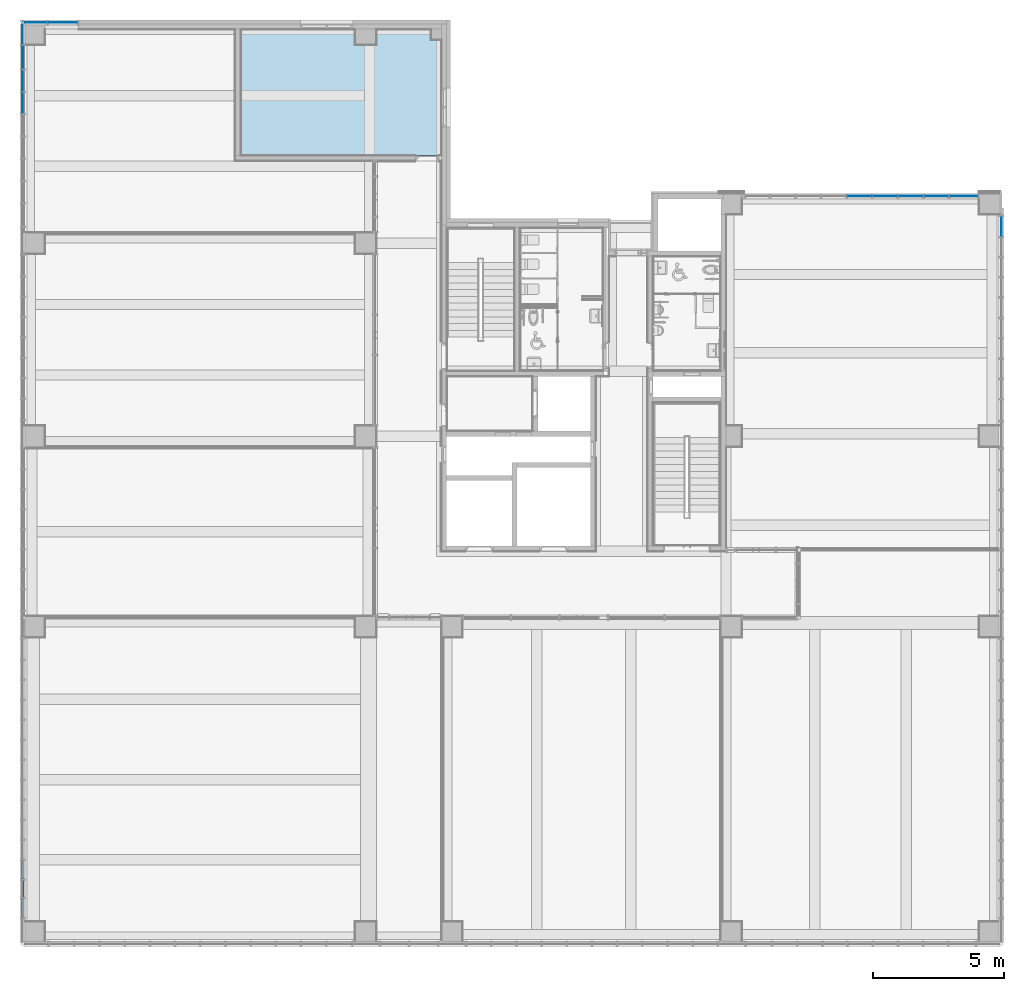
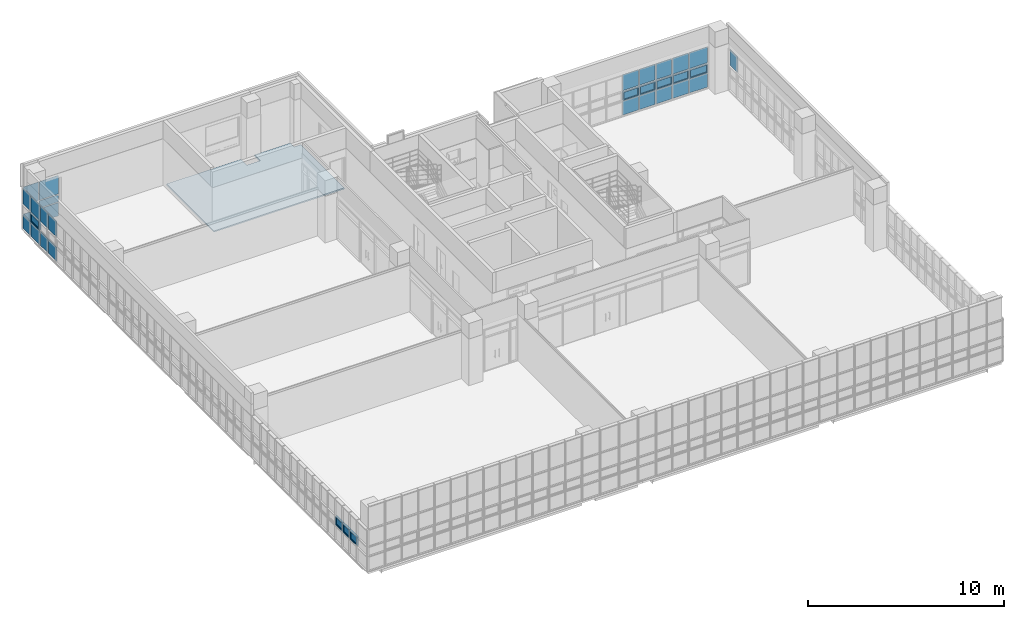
# One storey, part 37 of 76: 33 plates, 1 slab, 4 elements without a shape of their own.
"""IFC2X3 building model written with IfcOpenShell, lengths in millimetres."""

from ifc_helpers import new_model, entity, si_unit, converted_unit, derived_unit, direction, frame, origin, origin_2d_with_axis, place, context, subcontext, project, spatial, polyline, rectangle, outline, extrude, source, transform, mapped, material, material_list, layer, layer_set, layer_usage, type_object, type_shapes, element, aggregate, save


model = new_model("IFC2X3")

# Units and contexts
model_context = context("Model", 3, precision=0.01, world=origin(), true_north=direction((6.123031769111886e-17, 1.0)))
body_context = subcontext(model_context, "Body", "Model", "MODEL_VIEW")
ifc_project = project(units=[si_unit("LENGTHUNIT", "METRE", prefix="MILLI"), si_unit("AREAUNIT", "SQUARE_METRE"), si_unit("VOLUMEUNIT", "CUBIC_METRE"), converted_unit("PLANEANGLEUNIT", "DEGREE", entity("IfcRatioMeasure", 0.017453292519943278), si_unit("PLANEANGLEUNIT", "RADIAN"), dimensions=[0, 0, 0, 0, 0, 0, 0]), si_unit("MASSUNIT", "GRAM", prefix="KILO"), derived_unit("MASSDENSITYUNIT", [(si_unit("MASSUNIT", "GRAM", prefix="KILO"), 1), (si_unit("LENGTHUNIT", "METRE"), -3)]), derived_unit("MOMENTOFINERTIAUNIT", [(si_unit("LENGTHUNIT", "METRE"), 4)]), si_unit("TIMEUNIT", "SECOND"), si_unit("FREQUENCYUNIT", "HERTZ"), si_unit("THERMODYNAMICTEMPERATUREUNIT", "DEGREE_CELSIUS"), derived_unit("THERMALTRANSMITTANCEUNIT", [(si_unit("MASSUNIT", "GRAM", prefix="KILO"), 1), (si_unit("THERMODYNAMICTEMPERATUREUNIT", "KELVIN"), -1), (si_unit("TIMEUNIT", "SECOND"), -3)]), derived_unit("VOLUMETRICFLOWRATEUNIT", [(si_unit("LENGTHUNIT", "METRE"), 3), (si_unit("TIMEUNIT", "SECOND"), -1)]), derived_unit("MASSFLOWRATEUNIT", [(si_unit("MASSUNIT", "GRAM", prefix="KILO"), 1), (si_unit("TIMEUNIT", "SECOND"), -1)]), derived_unit("ROTATIONALFREQUENCYUNIT", [(si_unit("TIMEUNIT", "SECOND"), -1)]), si_unit("ELECTRICCURRENTUNIT", "AMPERE"), si_unit("ELECTRICVOLTAGEUNIT", "VOLT"), si_unit("POWERUNIT", "WATT"), si_unit("FORCEUNIT", "NEWTON", prefix="KILO"), si_unit("ILLUMINANCEUNIT", "LUX"), si_unit("LUMINOUSFLUXUNIT", "LUMEN"), si_unit("LUMINOUSINTENSITYUNIT", "CANDELA"), derived_unit("USERDEFINED", [(si_unit("MASSUNIT", "GRAM", prefix="KILO"), -1), (si_unit("LENGTHUNIT", "METRE"), -2), (si_unit("TIMEUNIT", "SECOND"), 3), (si_unit("LUMINOUSFLUXUNIT", "LUMEN"), 1)]), derived_unit("SOUNDPOWERUNIT", [(si_unit("MASSUNIT", "GRAM", prefix="KILO"), 1), (si_unit("LENGTHUNIT", "METRE"), 2), (si_unit("TIMEUNIT", "SECOND"), -3)]), derived_unit("SOUNDPRESSUREUNIT", [(si_unit("MASSUNIT", "GRAM", prefix="KILO"), 1), (si_unit("LENGTHUNIT", "METRE"), -1), (si_unit("TIMEUNIT", "SECOND"), -2)]), derived_unit("LINEARVELOCITYUNIT", [(si_unit("LENGTHUNIT", "METRE"), 1), (si_unit("TIMEUNIT", "SECOND"), -1)]), si_unit("PRESSUREUNIT", "PASCAL"), derived_unit("USERDEFINED", [(si_unit("LENGTHUNIT", "METRE"), -2), (si_unit("MASSUNIT", "GRAM", prefix="KILO"), 1), (si_unit("TIMEUNIT", "SECOND"), -2)]), derived_unit("LINEARFORCEUNIT", [(si_unit("MASSUNIT", "GRAM", prefix="KILO"), 1), (si_unit("LENGTHUNIT", "METRE"), 1), (si_unit("TIMEUNIT", "SECOND"), -2), (si_unit("LENGTHUNIT", "METRE"), -1)]), derived_unit("PLANARFORCEUNIT", [(si_unit("MASSUNIT", "GRAM", prefix="KILO"), 1), (si_unit("LENGTHUNIT", "METRE"), 1), (si_unit("TIMEUNIT", "SECOND"), -2), (si_unit("LENGTHUNIT", "METRE"), -2)])], contexts=[model_context])

# Site, building, storey
site_placement = place(None, frame((-14167.972527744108, -657.2125860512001, 0.0)))
site = spatial("IfcSite", under=ifc_project, at=site_placement, Name="Default", CompositionType="ELEMENT")
building_placement = place(site_placement, origin())
building = spatial("IfcBuilding", under=site, at=building_placement, Name="Sample Building", CompositionType="ELEMENT")
storey_placement = place(building_placement, frame((0.0, 0.0, 9300.0)))
storey = spatial("IfcBuildingStorey", under=building, at=storey_placement, Name="지상 3층", CompositionType="ELEMENT", Elevation=9300.000000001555)

# Curtain wall, plates
curtain_wall_type = type_object("IfcCurtainWallType", Name="커튼월:CW112-스테인리스 스틸 커튼월", PredefinedType="NOTDEFINED")
curtain_wall_1_placement = place(storey_placement, frame((0.0, 0.0, -9300.0)))
curtain_wall_1 = element("IfcCurtainWall", 1, at=curtain_wall_1_placement, inside=storey, type_object=curtain_wall_type, Name="커튼월:CW112-스테인리스 스틸 커튼월", ObjectType="커튼월:CW112-스테인리스 스틸 커튼월")
ifc_material_1 = material(Name="KBIMS-로이유리(코팅)")
plate_type_1 = type_object("IfcPlateType", Name="CW300-THK24.Low-e coating glass:CW300-THK24.Low-e coating glass", PredefinedType="CURTAIN_PANEL", material=ifc_material_1)
shared_shape_1 = source(origin(), body_context, "Body", "SweptSolid", [
    extrude(rectangle(XDim=24.000000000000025, YDim=874.6836271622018, at=origin_2d_with_axis()), frame((0.0, 0.0, 0.0), z_axis=(0.0, 0.0, 1.0), x_axis=(0.0, 1.0, 0.0)), (0.0, 0.0, 1.0), 824.9999999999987),
])
type_shapes(plate_type_1, [shared_shape_1])
plate_1_placement = place(curtain_wall_1_placement, frame((14505.314268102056, 35807.1622951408, 9430.0)))
plate_1 = element("IfcPlate", 2, at=plate_1_placement, type_object=plate_type_1, material=ifc_material_1, Name="CW300-THK24.Low-e coating glass:CW300-THK24.Low-e coating glass", ObjectType="CW300-THK24.Low-e coating glass:CW300-THK24.Low-e coating glass", context=body_context, shape_type="MappedRepresentation", body=[
    mapped(shared_shape_1, transform((0.0, 0.0, 0.0), scale=1.0)),
])
plate_type_2 = type_object("IfcPlateType", Name="CW300-THK24.Low-e coating glass:CW300-THK24.Low-e coating glass", PredefinedType="CURTAIN_PANEL", material=ifc_material_1)
shared_shape_2 = source(origin(), body_context, "Body", "SweptSolid", [
    extrude(rectangle(XDim=24.000000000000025, YDim=1124.6835731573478, at=origin_2d_with_axis()), frame((0.0, 0.0, 0.0), z_axis=(0.0, 0.0, 1.0), x_axis=(0.0, 1.0, 0.0)), (0.0, 0.0, 1.0), 824.9999999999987),
])
type_shapes(plate_type_2, [shared_shape_2])
plate_2_placement = place(curtain_wall_1_placement, frame((15554.997868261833, 35807.1622951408, 9430.0)))
plate_2 = element("IfcPlate", 3, at=plate_2_placement, type_object=plate_type_2, material=ifc_material_1, Name="CW300-THK24.Low-e coating glass:CW300-THK24.Low-e coating glass", ObjectType="CW300-THK24.Low-e coating glass:CW300-THK24.Low-e coating glass", context=body_context, shape_type="MappedRepresentation", body=[
    mapped(shared_shape_2, transform((0.0, 0.0, 0.0), scale=1.0)),
])
plate_type_3 = type_object("IfcPlateType", Name="CW300-THK24.Low-e coating glass:CW300-THK24.Low-e coating glass", PredefinedType="CURTAIN_PANEL", material=ifc_material_1)
shared_shape_3 = source(origin(), body_context, "Body", "SweptSolid", [
    extrude(rectangle(XDim=24.000000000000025, YDim=1124.6835731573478, at=origin_2d_with_axis()), frame((0.0, 0.0, 0.0), z_axis=(0.0, 0.0, 1.0), x_axis=(0.0, 1.0, 0.0)), (0.0, 0.0, 1.0), 449.9999999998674),
])
type_shapes(plate_type_3, [shared_shape_3])
plate_3_placement = place(curtain_wall_1_placement, frame((15554.997868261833, 35807.1622951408, 10305.0)))
plate_3 = element("IfcPlate", 4, at=plate_3_placement, type_object=plate_type_3, material=ifc_material_1, Name="CW300-THK24.Low-e coating glass:CW300-THK24.Low-e coating glass", ObjectType="CW300-THK24.Low-e coating glass:CW300-THK24.Low-e coating glass", context=body_context, shape_type="MappedRepresentation", body=[
    mapped(shared_shape_3, transform((0.0, 0.0, 0.0), scale=1.0)),
])
plate_type_4 = type_object("IfcPlateType", Name="CW300-THK24.Low-e coating glass:CW300-THK24.Low-e coating glass", PredefinedType="CURTAIN_PANEL", material=ifc_material_1)
shared_shape_4 = source(origin(), body_context, "Body", "SweptSolid", [
    extrude(rectangle(XDim=24.000000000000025, YDim=874.6836271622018, at=origin_2d_with_axis()), frame((0.0, 0.0, 0.0), z_axis=(0.0, 0.0, 1.0), x_axis=(0.0, 1.0, 0.0)), (0.0, 0.0, 1.0), 1145.0000000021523),
])
type_shapes(plate_type_4, [shared_shape_4])
plate_4_placement = place(curtain_wall_1_placement, frame((14505.314268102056, 35807.1622951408, 10805.0)))
plate_4 = element("IfcPlate", 5, at=plate_4_placement, type_object=plate_type_4, material=ifc_material_1, Name="CW300-THK24.Low-e coating glass:CW300-THK24.Low-e coating glass", ObjectType="CW300-THK24.Low-e coating glass:CW300-THK24.Low-e coating glass", context=body_context, shape_type="MappedRepresentation", body=[
    mapped(shared_shape_4, transform((0.0, 0.0, 0.0), scale=1.0)),
])
plate_type_5 = type_object("IfcPlateType", Name="CW300-THK24.Low-e coating glass:CW300-THK24.Low-e coating glass", PredefinedType="CURTAIN_PANEL", material=ifc_material_1)
shared_shape_5 = source(origin(), body_context, "Body", "SweptSolid", [
    extrude(rectangle(XDim=24.000000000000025, YDim=1124.6835731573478, at=origin_2d_with_axis()), frame((0.0, 0.0, 0.0), z_axis=(0.0, 0.0, 1.0), x_axis=(0.0, 1.0, 0.0)), (0.0, 0.0, 1.0), 1145.0000000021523),
])
type_shapes(plate_type_5, [shared_shape_5])
plate_5_placement = place(curtain_wall_1_placement, frame((15554.997868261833, 35807.1622951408, 10805.0)))
plate_5 = element("IfcPlate", 6, at=plate_5_placement, type_object=plate_type_5, material=ifc_material_1, Name="CW300-THK24.Low-e coating glass:CW300-THK24.Low-e coating glass", ObjectType="CW300-THK24.Low-e coating glass:CW300-THK24.Low-e coating glass", context=body_context, shape_type="MappedRepresentation", body=[
    mapped(shared_shape_5, transform((0.0, 0.0, 0.0), scale=1.0)),
])
aggregate(curtain_wall_1, [plate_1, plate_2, plate_3, plate_4, plate_5])

curtain_wall_2_placement = place(storey_placement, frame((0.0, 0.0, -9300.0)))
curtain_wall_2 = element("IfcCurtainWall", 7, at=curtain_wall_2_placement, inside=storey, type_object=curtain_wall_type, Name="커튼월:CW112-스테인리스 스틸 커튼월", ObjectType="커튼월:CW112-스테인리스 스틸 커튼월")
plate_type_6 = type_object("IfcPlateType", Name="CW300-THK24.Low-e coating glass:CW300-THK24.Low-e coating glass", PredefinedType="CURTAIN_PANEL", material=ifc_material_1)
shared_shape_6 = source(origin(), body_context, "Body", "SweptSolid", [
    extrude(rectangle(XDim=778.6554851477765, YDim=24.000000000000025, at=origin_2d_with_axis()), frame((0.0, 0.0, 0.0), z_axis=(0.0, 0.0, 1.0), x_axis=(-1.0, 0.0, 0.0)), (0.0, 0.0, 1.0), 875.0000000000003),
])
type_shapes(plate_type_6, [shared_shape_6])
plate_6_placement = place(curtain_wall_2_placement, frame((14018.58790484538, 35368.14544966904, 9430.0), z_axis=(0.0, 0.0, 1.0), x_axis=(0.0, -1.0, 0.0)))
plate_6 = element("IfcPlate", 8, at=plate_6_placement, type_object=plate_type_6, material=ifc_material_1, Name="CW300-THK24.Low-e coating glass:CW300-THK24.Low-e coating glass", ObjectType="CW300-THK24.Low-e coating glass:CW300-THK24.Low-e coating glass", context=body_context, shape_type="MappedRepresentation", body=[
    mapped(shared_shape_6, transform((0.0, 0.0, 0.0), scale=1.0)),
])
plate_type_7 = type_object("IfcPlateType", Name="CW300-THK24.Low-e coating glass:CW300-THK24.Low-e coating glass", PredefinedType="CURTAIN_PANEL", material=ifc_material_1)
shared_shape_7 = source(origin(), body_context, "Body", "SweptSolid", [
    extrude(rectangle(XDim=894.0000000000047, YDim=24.000000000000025, at=origin_2d_with_axis()), frame((0.0, 0.0, 0.0), z_axis=(0.0, 0.0, 1.0), x_axis=(-1.0, 0.0, 0.0)), (0.0, 0.0, 1.0), 875.0000000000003),
])
type_shapes(plate_type_7, [shared_shape_7])
plate_7_placement = place(curtain_wall_2_placement, frame((14018.587904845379, 34481.81770709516, 9430.0), z_axis=(0.0, 0.0, 1.0), x_axis=(0.0, -1.0, 0.0)))
plate_7 = element("IfcPlate", 9, at=plate_7_placement, type_object=plate_type_7, material=ifc_material_1, Name="CW300-THK24.Low-e coating glass:CW300-THK24.Low-e coating glass", ObjectType="CW300-THK24.Low-e coating glass:CW300-THK24.Low-e coating glass", context=body_context, shape_type="MappedRepresentation", body=[
    mapped(shared_shape_7, transform((0.0, 0.0, 0.0), scale=1.0)),
])
plate_type_8 = type_object("IfcPlateType", Name="CW300-THK24.Low-e coating glass:CW300-THK24.Low-e coating glass", PredefinedType="CURTAIN_PANEL", material=ifc_material_1)
shared_shape_8 = source(origin(), body_context, "Body", "SweptSolid", [
    extrude(rectangle(XDim=804.0000000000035, YDim=24.000000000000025, at=origin_2d_with_axis()), frame((0.0, 0.0, 0.0), z_axis=(0.0, 0.0, 1.0), x_axis=(-1.0, 0.0, 0.0)), (0.0, 0.0, 1.0), 875.0000000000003),
])
type_shapes(plate_type_8, [shared_shape_8])
plate_8_placement = place(curtain_wall_2_placement, frame((14018.587904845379, 33582.81770709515, 9430.0), z_axis=(0.0, 0.0, 1.0), x_axis=(0.0, -1.0, 0.0)))
plate_8 = element("IfcPlate", 10, at=plate_8_placement, type_object=plate_type_8, material=ifc_material_1, Name="CW300-THK24.Low-e coating glass:CW300-THK24.Low-e coating glass", ObjectType="CW300-THK24.Low-e coating glass:CW300-THK24.Low-e coating glass", context=body_context, shape_type="MappedRepresentation", body=[
    mapped(shared_shape_8, transform((0.0, 0.0, 0.0), scale=1.0)),
])
plate_9_placement = place(curtain_wall_2_placement, frame((14018.587904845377, 32728.817707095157, 9430.0), z_axis=(0.0, 0.0, 1.0), x_axis=(0.0, -1.0, 0.0)))
plate_9 = element("IfcPlate", 11, at=plate_9_placement, type_object=plate_type_8, material=ifc_material_1, Name="CW300-THK24.Low-e coating glass:CW300-THK24.Low-e coating glass", ObjectType="CW300-THK24.Low-e coating glass:CW300-THK24.Low-e coating glass", context=body_context, shape_type="MappedRepresentation", body=[
    mapped(shared_shape_8, transform((0.0, 0.0, 0.0), scale=1.0)),
])
ifc_material_2 = material(Name="KBIMS-유리")
ifc_material_3 = material(Name="KBIMS-알루미늄")
ifc_material_list_1 = material_list([ifc_material_2, ifc_material_3])
ifc_material_list_2 = material_list([ifc_material_2, ifc_material_3])
plate_type_9 = type_object("IfcPlateType", Name="CW410-프로젝트 창:CW410-프로젝트 창 (하부개폐)", PredefinedType="CURTAIN_PANEL", material=ifc_material_list_2)
shared_shape_9 = source(origin(), body_context, "Body", "SweptSolid", [
    extrude(rectangle(XDim=794.0000000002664, YDim=23.999999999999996, at=origin_2d_with_axis()), frame((0.0, -0.04999999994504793, 50.0), z_axis=(0.0, 0.0, 1.0), x_axis=(-1.0, 0.0, 0.0)), (0.0, 0.0, 1.0), 450.0000000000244),
    extrude(outline(polyline([(-447.0, -275.0), (447.0, -275.0), (447.0, 275.0), (-447.0, 275.0), (-447.0, -275.0)]), holes=[polyline([(-397.0, -225.0), (-397.0, 225.0), (397.0, 225.0), (397.0, -225.0), (-397.0, -225.0)])]), frame((0.0, -50.04999999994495, 275.0), z_axis=(0.0, 1.0, 0.0), x_axis=(1.0, 0.0, 0.0)), (0.0, 0.0, 1.0), 99.99999999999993),
])
type_shapes(plate_type_9, [shared_shape_9])
plate_10_placement = place(curtain_wall_2_placement, frame((14018.587904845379, 34481.81770709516, 10355.0), z_axis=(0.0, 0.0, 1.0), x_axis=(0.0, -1.0, 0.0)))
plate_10 = element("IfcPlate", 12, at=plate_10_placement, type_object=plate_type_9, material=ifc_material_list_1, Name="CW410-프로젝트 창:CW410-프로젝트 창 (하부개폐)", ObjectType="CW410-프로젝트 창:CW410-프로젝트 창 (하부개폐)", context=body_context, shape_type="MappedRepresentation", body=[
    mapped(shared_shape_9, transform((0.0, 0.0, 0.0), scale=1.0)),
])
ifc_material_list_3 = material_list([ifc_material_2, ifc_material_3])
ifc_material_list_4 = material_list([ifc_material_2, ifc_material_3])
plate_type_10 = type_object("IfcPlateType", Name="CW410-프로젝트 창:CW410-프로젝트 창 (하부개폐)", PredefinedType="CURTAIN_PANEL", material=ifc_material_list_4)
shared_shape_10 = source(origin(), body_context, "Body", "SweptSolid", [
    extrude(rectangle(XDim=616.0000000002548, YDim=23.999999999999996, at=origin_2d_with_axis()), frame((0.0, -0.04999999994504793, 50.0), z_axis=(0.0, 0.0, 1.0), x_axis=(-1.0, 0.0, 0.0)), (0.0, 0.0, 1.0), 450.0000000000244),
    extrude(outline(polyline([(-358.0, -275.0), (358.0, -275.0), (358.0, 275.0), (-358.0, 275.0), (-358.0, -275.0)]), holes=[polyline([(-308.0, -225.0), (-308.0, 225.0), (308.0, 225.0), (308.0, -225.0), (-308.0, -225.0)])]), frame((0.0, -50.04999999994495, 275.0), z_axis=(0.0, 1.0, 0.0), x_axis=(1.0, 0.0, 0.0)), (0.0, 0.0, 1.0), 99.99999999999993),
])
type_shapes(plate_type_10, [shared_shape_10])
plate_11_placement = place(curtain_wall_2_placement, frame((14018.587904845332, 3352.817707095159, 10355.0), z_axis=(0.0, 0.0, 1.0), x_axis=(0.0, -1.0, 0.0)))
plate_11 = element("IfcPlate", 13, at=plate_11_placement, type_object=plate_type_10, material=ifc_material_list_3, Name="CW410-프로젝트 창:CW410-프로젝트 창 (하부개폐)", ObjectType="CW410-프로젝트 창:CW410-프로젝트 창 (하부개폐)", context=body_context, shape_type="MappedRepresentation", body=[
    mapped(shared_shape_10, transform((0.0, 0.0, 0.0), scale=1.0)),
])
ifc_material_list_5 = material_list([ifc_material_2, ifc_material_3])
ifc_material_list_6 = material_list([ifc_material_2, ifc_material_3])
plate_type_11 = type_object("IfcPlateType", Name="CW410-프로젝트 창:CW410-프로젝트 창 (하부개폐)", PredefinedType="CURTAIN_PANEL", material=ifc_material_list_6)
shared_shape_11 = source(origin(), body_context, "Body", "SweptSolid", [
    extrude(rectangle(XDim=542.000000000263, YDim=23.999999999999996, at=origin_2d_with_axis()), frame((0.0, -0.04999999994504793, 50.0), z_axis=(0.0, 0.0, 1.0), x_axis=(-1.0, 0.0, 0.0)), (0.0, 0.0, 1.0), 450.0000000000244),
    extrude(outline(polyline([(-321.0, -275.0), (321.0, -275.0), (321.0, 275.0), (-321.0, 275.0), (-321.0, -275.0)]), holes=[polyline([(-271.0, -225.0), (-271.0, 225.0), (271.0, 225.0), (271.0, -225.0), (-271.0, -225.0)])]), frame((0.0, -50.04999999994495, 275.0), z_axis=(0.0, 1.0, 0.0), x_axis=(1.0, 0.0, 0.0)), (0.0, 0.0, 1.0), 99.99999999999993),
])
type_shapes(plate_type_11, [shared_shape_11])
plate_12_placement = place(curtain_wall_2_placement, frame((14018.587904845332, 2623.81770709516, 10355.0), z_axis=(0.0, 0.0, 1.0), x_axis=(0.0, -1.0, 0.0)))
plate_12 = element("IfcPlate", 14, at=plate_12_placement, type_object=plate_type_11, material=ifc_material_list_5, Name="CW410-프로젝트 창:CW410-프로젝트 창 (하부개폐)", ObjectType="CW410-프로젝트 창:CW410-프로젝트 창 (하부개폐)", context=body_context, shape_type="MappedRepresentation", body=[
    mapped(shared_shape_11, transform((0.0, 0.0, 0.0), scale=1.0)),
])
ifc_material_list_7 = material_list([ifc_material_2, ifc_material_3])
ifc_material_list_8 = material_list([ifc_material_2, ifc_material_3])
plate_type_12 = type_object("IfcPlateType", Name="CW410-프로젝트 창:CW410-프로젝트 창 (하부개폐)", PredefinedType="CURTAIN_PANEL", material=ifc_material_list_8)
shared_shape_12 = source(origin(), body_context, "Body", "SweptSolid", [
    extrude(rectangle(XDim=633.0000000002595, YDim=23.999999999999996, at=origin_2d_with_axis()), frame((0.0, -0.04999999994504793, 50.0), z_axis=(0.0, 0.0, 1.0), x_axis=(-1.0, 0.0, 0.0)), (0.0, 0.0, 1.0), 450.0000000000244),
    extrude(outline(polyline([(-366.4999999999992, -275.0), (366.4999999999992, -275.0), (366.4999999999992, 275.0), (-366.4999999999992, 275.0), (-366.4999999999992, -275.0)]), holes=[polyline([(-316.50000000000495, -225.0), (-316.500000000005, 225.0), (316.5000000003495, 225.0), (316.50000000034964, -225.0), (-316.50000000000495, -225.0)])]), frame((0.0, -50.04999999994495, 275.0), z_axis=(0.0, 1.0, 0.0), x_axis=(1.0, 0.0, 0.0)), (0.0, 0.0, 1.0), 99.99999999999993),
])
type_shapes(plate_type_12, [shared_shape_12])
plate_13_placement = place(curtain_wall_2_placement, frame((14018.587904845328, 1886.3177070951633, 10355.0), z_axis=(0.0, 0.0, 1.0), x_axis=(0.0, -1.0, 0.0)))
plate_13 = element("IfcPlate", 15, at=plate_13_placement, type_object=plate_type_12, material=ifc_material_list_7, Name="CW410-프로젝트 창:CW410-프로젝트 창 (하부개폐)", ObjectType="CW410-프로젝트 창:CW410-프로젝트 창 (하부개폐)", context=body_context, shape_type="MappedRepresentation", body=[
    mapped(shared_shape_12, transform((0.0, 0.0, 0.0), scale=1.0)),
])
plate_type_13 = type_object("IfcPlateType", Name="CW300-THK24.Low-e coating glass:CW300-THK24.Low-e coating glass", PredefinedType="CURTAIN_PANEL", material=ifc_material_1)
shared_shape_13 = source(origin(), body_context, "Body", "SweptSolid", [
    extrude(rectangle(XDim=778.6554851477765, YDim=24.000000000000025, at=origin_2d_with_axis()), frame((0.0, 0.0, 0.0), z_axis=(0.0, 0.0, 1.0), x_axis=(-1.0, 0.0, 0.0)), (0.0, 0.0, 1.0), 995.0000000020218),
])
type_shapes(plate_type_13, [shared_shape_13])
plate_14_placement = place(curtain_wall_2_placement, frame((14018.58790484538, 35368.14544966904, 10955.0), z_axis=(0.0, 0.0, 1.0), x_axis=(0.0, -1.0, 0.0)))
plate_14 = element("IfcPlate", 16, at=plate_14_placement, type_object=plate_type_13, material=ifc_material_1, Name="CW300-THK24.Low-e coating glass:CW300-THK24.Low-e coating glass", ObjectType="CW300-THK24.Low-e coating glass:CW300-THK24.Low-e coating glass", context=body_context, shape_type="MappedRepresentation", body=[
    mapped(shared_shape_13, transform((0.0, 0.0, 0.0), scale=1.0)),
])
plate_type_14 = type_object("IfcPlateType", Name="CW300-THK24.Low-e coating glass:CW300-THK24.Low-e coating glass", PredefinedType="CURTAIN_PANEL", material=ifc_material_1)
shared_shape_14 = source(origin(), body_context, "Body", "SweptSolid", [
    extrude(rectangle(XDim=894.0000000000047, YDim=24.000000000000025, at=origin_2d_with_axis()), frame((0.0, 0.0, 0.0), z_axis=(0.0, 0.0, 1.0), x_axis=(-1.0, 0.0, 0.0)), (0.0, 0.0, 1.0), 995.0000000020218),
])
type_shapes(plate_type_14, [shared_shape_14])
plate_15_placement = place(curtain_wall_2_placement, frame((14018.587904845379, 34481.81770709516, 10955.0), z_axis=(0.0, 0.0, 1.0), x_axis=(0.0, -1.0, 0.0)))
plate_15 = element("IfcPlate", 17, at=plate_15_placement, type_object=plate_type_14, material=ifc_material_1, Name="CW300-THK24.Low-e coating glass:CW300-THK24.Low-e coating glass", ObjectType="CW300-THK24.Low-e coating glass:CW300-THK24.Low-e coating glass", context=body_context, shape_type="MappedRepresentation", body=[
    mapped(shared_shape_14, transform((0.0, 0.0, 0.0), scale=1.0)),
])
plate_type_15 = type_object("IfcPlateType", Name="CW300-THK24.Low-e coating glass:CW300-THK24.Low-e coating glass", PredefinedType="CURTAIN_PANEL", material=ifc_material_1)
shared_shape_15 = source(origin(), body_context, "Body", "SweptSolid", [
    extrude(rectangle(XDim=803.9999999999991, YDim=24.000000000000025, at=origin_2d_with_axis()), frame((0.0, 0.0, 0.0), z_axis=(0.0, 0.0, 1.0), x_axis=(-1.0, 0.0, 0.0)), (0.0, 0.0, 1.0), 995.0000000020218),
])
type_shapes(plate_type_15, [shared_shape_15])
plate_16_placement = place(curtain_wall_2_placement, frame((14018.587904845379, 33582.81770709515, 10955.0), z_axis=(0.0, 0.0, 1.0), x_axis=(0.0, -1.0, 0.0)))
plate_16 = element("IfcPlate", 18, at=plate_16_placement, type_object=plate_type_15, material=ifc_material_1, Name="CW300-THK24.Low-e coating glass:CW300-THK24.Low-e coating glass", ObjectType="CW300-THK24.Low-e coating glass:CW300-THK24.Low-e coating glass", context=body_context, shape_type="MappedRepresentation", body=[
    mapped(shared_shape_15, transform((0.0, 0.0, 0.0), scale=1.0)),
])
plate_17_placement = place(curtain_wall_2_placement, frame((14018.587904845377, 32728.817707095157, 10955.0), z_axis=(0.0, 0.0, 1.0), x_axis=(0.0, -1.0, 0.0)))
plate_17 = element("IfcPlate", 19, at=plate_17_placement, type_object=plate_type_15, material=ifc_material_1, Name="CW300-THK24.Low-e coating glass:CW300-THK24.Low-e coating glass", ObjectType="CW300-THK24.Low-e coating glass:CW300-THK24.Low-e coating glass", context=body_context, shape_type="MappedRepresentation", body=[
    mapped(shared_shape_15, transform((0.0, 0.0, 0.0), scale=1.0)),
])
aggregate(curtain_wall_2, [plate_6, plate_7, plate_8, plate_9, plate_10, plate_11, plate_12, plate_13, plate_14, plate_15, plate_16, plate_17])

# Curtain wall, plate
curtain_wall_3_placement = place(storey_placement, frame((0.0, 0.0, -9300.0)))
curtain_wall_3 = element("IfcCurtainWall", 20, at=curtain_wall_3_placement, inside=storey, type_object=curtain_wall_type, Name="커튼월:CW112-스테인리스 스틸 커튼월", ObjectType="커튼월:CW112-스테인리스 스틸 커튼월")
plate_type_16 = type_object("IfcPlateType", Name="CW300-THK24.Low-e coating glass:CW300-THK24.Low-e coating glass", PredefinedType="CURTAIN_PANEL", material=ifc_material_1)
shared_shape_16 = source(origin(), body_context, "Body", "SweptSolid", [
    extrude(rectangle(XDim=24.000000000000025, YDim=783.3946888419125, at=origin_2d_with_axis()), frame((0.0, 0.0, 0.0), z_axis=(0.0, 0.0, 1.0), x_axis=(0.0, 1.0, 0.0)), (0.0, 0.0, 1.0), 995.0000000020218),
])
type_shapes(plate_type_16, [shared_shape_16])
plate_18_placement = place(curtain_wall_3_placement, frame((51517.96382893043, 27997.515051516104, 10955.0), z_axis=(0.0, 0.0, 1.0), x_axis=(0.0, -1.0, 0.0)))
plate_18 = element("IfcPlate", 21, at=plate_18_placement, type_object=plate_type_16, material=ifc_material_1, Name="CW300-THK24.Low-e coating glass:CW300-THK24.Low-e coating glass", ObjectType="CW300-THK24.Low-e coating glass:CW300-THK24.Low-e coating glass", context=body_context, shape_type="MappedRepresentation", body=[
    mapped(shared_shape_16, transform((0.0, 0.0, 0.0), scale=1.0)),
])
aggregate(curtain_wall_3, [plate_18])

# Curtain wall, plates
curtain_wall_4_placement = place(storey_placement, frame((0.0, 0.0, -9300.0)))
curtain_wall_4 = element("IfcCurtainWall", 22, at=curtain_wall_4_placement, inside=storey, type_object=curtain_wall_type, Name="커튼월:CW112-스테인리스 스틸 커튼월", ObjectType="커튼월:CW112-스테인리스 스틸 커튼월")
plate_type_17 = type_object("IfcPlateType", Name="CW300-THK24.Low-e coating glass:CW300-THK24.Low-e coating glass", PredefinedType="CURTAIN_PANEL", material=ifc_material_1)
shared_shape_17 = source(origin(), body_context, "Body", "SweptSolid", [
    extrude(rectangle(XDim=1076.0156546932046, YDim=24.000000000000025, at=origin_2d_with_axis()), frame((0.0, 0.0, 0.0), z_axis=(0.0, 0.0, 1.0), x_axis=(-1.0, 0.0, 0.0)), (0.0, 0.0, 1.0), 875.0000000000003),
])
type_shapes(plate_type_17, [shared_shape_17])
plate_19_placement = place(curtain_wall_4_placement, frame((50070.97338755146, 29157.212295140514, 9430.0), z_axis=(0.0, 0.0, 1.0), x_axis=(-1.0, 0.0, 0.0)))
plate_19 = element("IfcPlate", 23, at=plate_19_placement, type_object=plate_type_17, material=ifc_material_1, Name="CW300-THK24.Low-e coating glass:CW300-THK24.Low-e coating glass", ObjectType="CW300-THK24.Low-e coating glass:CW300-THK24.Low-e coating glass", context=body_context, shape_type="MappedRepresentation", body=[
    mapped(shared_shape_17, transform((0.0, 0.0, 0.0), scale=1.0)),
])
plate_type_18 = type_object("IfcPlateType", Name="CW300-THK24.Low-e coating glass:CW300-THK24.Low-e coating glass", PredefinedType="CURTAIN_PANEL", material=ifc_material_1)
shared_shape_18 = source(origin(), body_context, "Body", "SweptSolid", [
    extrude(rectangle(XDim=929.9991343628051, YDim=24.000000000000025, at=origin_2d_with_axis()), frame((0.0, 0.0, 0.0), z_axis=(0.0, 0.0, 1.0), x_axis=(-1.0, 0.0, 0.0)), (0.0, 0.0, 1.0), 875.0000000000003),
])
type_shapes(plate_type_18, [shared_shape_18])
plate_20_placement = place(curtain_wall_4_placement, frame((49017.96599302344, 29157.212295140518, 9430.0), z_axis=(0.0, 0.0, 1.0), x_axis=(-1.0, 0.0, 0.0)))
plate_20 = element("IfcPlate", 24, at=plate_20_placement, type_object=plate_type_18, material=ifc_material_1, Name="CW300-THK24.Low-e coating glass:CW300-THK24.Low-e coating glass", ObjectType="CW300-THK24.Low-e coating glass:CW300-THK24.Low-e coating glass", context=body_context, shape_type="MappedRepresentation", body=[
    mapped(shared_shape_18, transform((0.0, 0.0, 0.0), scale=1.0)),
])
plate_21_placement = place(curtain_wall_4_placement, frame((48037.966858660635, 29157.212295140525, 9430.0), z_axis=(0.0, 0.0, 1.0), x_axis=(-1.0, 0.0, 0.0)))
plate_21 = element("IfcPlate", 25, at=plate_21_placement, type_object=plate_type_18, material=ifc_material_1, Name="CW300-THK24.Low-e coating glass:CW300-THK24.Low-e coating glass", ObjectType="CW300-THK24.Low-e coating glass:CW300-THK24.Low-e coating glass", context=body_context, shape_type="MappedRepresentation", body=[
    mapped(shared_shape_18, transform((0.0, 0.0, 0.0), scale=1.0)),
])
plate_22_placement = place(curtain_wall_4_placement, frame((47057.96772429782, 29157.21229514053, 9430.0), z_axis=(0.0, 0.0, 1.0), x_axis=(-1.0, 0.0, 0.0)))
plate_22 = element("IfcPlate", 26, at=plate_22_placement, type_object=plate_type_18, material=ifc_material_1, Name="CW300-THK24.Low-e coating glass:CW300-THK24.Low-e coating glass", ObjectType="CW300-THK24.Low-e coating glass:CW300-THK24.Low-e coating glass", context=body_context, shape_type="MappedRepresentation", body=[
    mapped(shared_shape_18, transform((0.0, 0.0, 0.0), scale=1.0)),
])
plate_23_placement = place(curtain_wall_4_placement, frame((46077.96858993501, 29157.21229514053, 9430.0), z_axis=(0.0, 0.0, 1.0), x_axis=(-1.0, 0.0, 0.0)))
plate_23 = element("IfcPlate", 27, at=plate_23_placement, type_object=plate_type_18, material=ifc_material_1, Name="CW300-THK24.Low-e coating glass:CW300-THK24.Low-e coating glass", ObjectType="CW300-THK24.Low-e coating glass:CW300-THK24.Low-e coating glass", context=body_context, shape_type="MappedRepresentation", body=[
    mapped(shared_shape_18, transform((0.0, 0.0, 0.0), scale=1.0)),
])
ifc_material_list_9 = material_list([ifc_material_2, ifc_material_3])
ifc_material_list_10 = material_list([ifc_material_2, ifc_material_3])
plate_type_19 = type_object("IfcPlateType", Name="CW410-프로젝트 창:CW410-프로젝트 창 (하부개폐)", PredefinedType="CURTAIN_PANEL", material=ifc_material_list_10)
shared_shape_19 = source(origin(), body_context, "Body", "SweptSolid", [
    extrude(rectangle(XDim=23.999999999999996, YDim=976.0156546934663, at=origin_2d_with_axis()), frame((0.0, 0.04999999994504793, 50.0), z_axis=(0.0, 0.0, 1.0), x_axis=(0.0, 1.0, 0.0)), (0.0, 0.0, 1.0), 450.0000000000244),
    extrude(outline(polyline([(-538.0078273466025, -275.0), (538.0078273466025, -275.0), (538.0078273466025, 275.0), (-538.0078273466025, 275.0), (-538.0078273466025, -275.0)]), holes=[polyline([(-488.0078273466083, -225.0), (-488.00782734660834, 225.0), (488.0078273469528, 225.0), (488.007827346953, -225.0), (-488.0078273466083, -225.0)])]), frame((0.0, -49.95000000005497, 275.0), z_axis=(0.0, 1.0, 0.0), x_axis=(1.0, 0.0, 0.0)), (0.0, 0.0, 1.0), 99.99999999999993),
])
type_shapes(plate_type_19, [shared_shape_19])
plate_24_placement = place(curtain_wall_4_placement, frame((50070.97338755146, 29157.212295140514, 10355.0), z_axis=(0.0, 0.0, 1.0), x_axis=(-1.0, 0.0, 0.0)))
plate_24 = element("IfcPlate", 28, at=plate_24_placement, type_object=plate_type_19, material=ifc_material_list_9, Name="CW410-프로젝트 창:CW410-프로젝트 창 (하부개폐)", ObjectType="CW410-프로젝트 창:CW410-프로젝트 창 (하부개폐)", context=body_context, shape_type="MappedRepresentation", body=[
    mapped(shared_shape_19, transform((0.0, 0.0, 0.0), scale=1.0)),
])
ifc_material_list_11 = material_list([ifc_material_2, ifc_material_3])
ifc_material_list_12 = material_list([ifc_material_2, ifc_material_3])
plate_type_20 = type_object("IfcPlateType", Name="CW410-프로젝트 창:CW410-프로젝트 창 (하부개폐)", PredefinedType="CURTAIN_PANEL", material=ifc_material_list_12)
shared_shape_20 = source(origin(), body_context, "Body", "SweptSolid", [
    extrude(rectangle(XDim=829.9991343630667, YDim=23.999999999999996, at=origin_2d_with_axis()), frame((0.0, -0.04999999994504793, 50.0), z_axis=(0.0, 0.0, 1.0), x_axis=(-1.0, 0.0, 0.0)), (0.0, 0.0, 1.0), 450.0000000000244),
    extrude(outline(polyline([(-464.9995671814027, -275.0), (464.9995671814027, -275.0), (464.9995671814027, 275.0), (-464.9995671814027, 275.0), (-464.9995671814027, -275.0)]), holes=[polyline([(-414.9995671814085, -225.0), (-414.99956718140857, 225.0), (414.99956718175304, 225.0), (414.99956718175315, -225.0), (-414.9995671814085, -225.0)])]), frame((0.0, -50.04999999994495, 275.0), z_axis=(0.0, 1.0, 0.0), x_axis=(1.0, 0.0, 0.0)), (0.0, 0.0, 1.0), 99.99999999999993),
])
type_shapes(plate_type_20, [shared_shape_20])
plate_25_placement = place(curtain_wall_4_placement, frame((49017.96599302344, 29157.212295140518, 10355.0), z_axis=(0.0, 0.0, 1.0), x_axis=(-1.0, 0.0, 0.0)))
plate_25 = element("IfcPlate", 29, at=plate_25_placement, type_object=plate_type_20, material=ifc_material_list_11, Name="CW410-프로젝트 창:CW410-프로젝트 창 (하부개폐)", ObjectType="CW410-프로젝트 창:CW410-프로젝트 창 (하부개폐)", context=body_context, shape_type="MappedRepresentation", body=[
    mapped(shared_shape_20, transform((0.0, 0.0, 0.0), scale=1.0)),
])
ifc_material_list_13 = material_list([ifc_material_2, ifc_material_3])
plate_26_placement = place(curtain_wall_4_placement, frame((48037.966858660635, 29157.212295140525, 10355.0), z_axis=(0.0, 0.0, 1.0), x_axis=(-1.0, 0.0, 0.0)))
plate_26 = element("IfcPlate", 30, at=plate_26_placement, type_object=plate_type_20, material=ifc_material_list_13, Name="CW410-프로젝트 창:CW410-프로젝트 창 (하부개폐)", ObjectType="CW410-프로젝트 창:CW410-프로젝트 창 (하부개폐)", context=body_context, shape_type="MappedRepresentation", body=[
    mapped(shared_shape_20, transform((0.0, 0.0, 0.0), scale=1.0)),
])
ifc_material_list_14 = material_list([ifc_material_2, ifc_material_3])
plate_27_placement = place(curtain_wall_4_placement, frame((47057.96772429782, 29157.21229514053, 10355.0), z_axis=(0.0, 0.0, 1.0), x_axis=(-1.0, 0.0, 0.0)))
plate_27 = element("IfcPlate", 31, at=plate_27_placement, type_object=plate_type_20, material=ifc_material_list_14, Name="CW410-프로젝트 창:CW410-프로젝트 창 (하부개폐)", ObjectType="CW410-프로젝트 창:CW410-프로젝트 창 (하부개폐)", context=body_context, shape_type="MappedRepresentation", body=[
    mapped(shared_shape_20, transform((0.0, 0.0, 0.0), scale=1.0)),
])
ifc_material_list_15 = material_list([ifc_material_2, ifc_material_3])
plate_28_placement = place(curtain_wall_4_placement, frame((46077.96858993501, 29157.21229514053, 10355.0), z_axis=(0.0, 0.0, 1.0), x_axis=(-1.0, 0.0, 0.0)))
plate_28 = element("IfcPlate", 32, at=plate_28_placement, type_object=plate_type_20, material=ifc_material_list_15, Name="CW410-프로젝트 창:CW410-프로젝트 창 (하부개폐)", ObjectType="CW410-프로젝트 창:CW410-프로젝트 창 (하부개폐)", context=body_context, shape_type="MappedRepresentation", body=[
    mapped(shared_shape_20, transform((0.0, 0.0, 0.0), scale=1.0)),
])
plate_type_21 = type_object("IfcPlateType", Name="CW300-THK24.Low-e coating glass:CW300-THK24.Low-e coating glass", PredefinedType="CURTAIN_PANEL", material=ifc_material_1)
shared_shape_21 = source(origin(), body_context, "Body", "SweptSolid", [
    extrude(rectangle(XDim=1076.0156546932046, YDim=24.000000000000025, at=origin_2d_with_axis()), frame((0.0, 0.0, 0.0), z_axis=(0.0, 0.0, 1.0), x_axis=(-1.0, 0.0, 0.0)), (0.0, 0.0, 1.0), 995.0000000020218),
])
type_shapes(plate_type_21, [shared_shape_21])
plate_29_placement = place(curtain_wall_4_placement, frame((50070.97338755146, 29157.212295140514, 10955.0), z_axis=(0.0, 0.0, 1.0), x_axis=(-1.0, 0.0, 0.0)))
plate_29 = element("IfcPlate", 33, at=plate_29_placement, type_object=plate_type_21, material=ifc_material_1, Name="CW300-THK24.Low-e coating glass:CW300-THK24.Low-e coating glass", ObjectType="CW300-THK24.Low-e coating glass:CW300-THK24.Low-e coating glass", context=body_context, shape_type="MappedRepresentation", body=[
    mapped(shared_shape_21, transform((0.0, 0.0, 0.0), scale=1.0)),
])
plate_type_22 = type_object("IfcPlateType", Name="CW300-THK24.Low-e coating glass:CW300-THK24.Low-e coating glass", PredefinedType="CURTAIN_PANEL", material=ifc_material_1)
shared_shape_22 = source(origin(), body_context, "Body", "SweptSolid", [
    extrude(rectangle(XDim=929.9991343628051, YDim=24.000000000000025, at=origin_2d_with_axis()), frame((0.0, 0.0, 0.0), z_axis=(0.0, 0.0, 1.0), x_axis=(-1.0, 0.0, 0.0)), (0.0, 0.0, 1.0), 995.0000000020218),
])
type_shapes(plate_type_22, [shared_shape_22])
plate_30_placement = place(curtain_wall_4_placement, frame((49017.96599302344, 29157.212295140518, 10955.0), z_axis=(0.0, 0.0, 1.0), x_axis=(-1.0, 0.0, 0.0)))
plate_30 = element("IfcPlate", 34, at=plate_30_placement, type_object=plate_type_22, material=ifc_material_1, Name="CW300-THK24.Low-e coating glass:CW300-THK24.Low-e coating glass", ObjectType="CW300-THK24.Low-e coating glass:CW300-THK24.Low-e coating glass", context=body_context, shape_type="MappedRepresentation", body=[
    mapped(shared_shape_22, transform((0.0, 0.0, 0.0), scale=1.0)),
])
plate_31_placement = place(curtain_wall_4_placement, frame((48037.966858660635, 29157.212295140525, 10955.0), z_axis=(0.0, 0.0, 1.0), x_axis=(-1.0, 0.0, 0.0)))
plate_31 = element("IfcPlate", 35, at=plate_31_placement, type_object=plate_type_22, material=ifc_material_1, Name="CW300-THK24.Low-e coating glass:CW300-THK24.Low-e coating glass", ObjectType="CW300-THK24.Low-e coating glass:CW300-THK24.Low-e coating glass", context=body_context, shape_type="MappedRepresentation", body=[
    mapped(shared_shape_22, transform((0.0, 0.0, 0.0), scale=1.0)),
])
plate_32_placement = place(curtain_wall_4_placement, frame((47057.96772429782, 29157.21229514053, 10955.0), z_axis=(0.0, 0.0, 1.0), x_axis=(-1.0, 0.0, 0.0)))
plate_32 = element("IfcPlate", 36, at=plate_32_placement, type_object=plate_type_22, material=ifc_material_1, Name="CW300-THK24.Low-e coating glass:CW300-THK24.Low-e coating glass", ObjectType="CW300-THK24.Low-e coating glass:CW300-THK24.Low-e coating glass", context=body_context, shape_type="MappedRepresentation", body=[
    mapped(shared_shape_22, transform((0.0, 0.0, 0.0), scale=1.0)),
])
plate_33_placement = place(curtain_wall_4_placement, frame((46077.96858993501, 29157.21229514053, 10955.0), z_axis=(0.0, 0.0, 1.0), x_axis=(-1.0, 0.0, 0.0)))
plate_33 = element("IfcPlate", 37, at=plate_33_placement, type_object=plate_type_22, material=ifc_material_1, Name="CW300-THK24.Low-e coating glass:CW300-THK24.Low-e coating glass", ObjectType="CW300-THK24.Low-e coating glass:CW300-THK24.Low-e coating glass", context=body_context, shape_type="MappedRepresentation", body=[
    mapped(shared_shape_22, transform((0.0, 0.0, 0.0), scale=1.0)),
])
aggregate(curtain_wall_4, [plate_19, plate_20, plate_21, plate_22, plate_23, plate_24, plate_25, plate_26, plate_27, plate_28, plate_29, plate_30, plate_31, plate_32, plate_33])

# Slab
ifc_material_4 = material(Name="SL341-테라조 바닥 (바탕48mm, 마감32mm)")
ifc_layer = layer(ifc_material_4, 80.0)
ifc_layer_set = layer_set([ifc_layer], Name="바닥:A1-14-06B-테라조타일 (80mm)")
ifc_layer_usage = layer_usage(ifc_layer_set, "AXIS3", "POSITIVE", 0.0)
slab_type = type_object("IfcSlabType", Name="바닥:A1-14-06B-테라조타일 (80mm)", PredefinedType="FLOOR", material=ifc_layer_set)
slab_placement = place(storey_placement, origin())
element("IfcSlab", 38, at=slab_placement, inside=storey, type_object=slab_type, material=ifc_layer_usage, Name="바닥:A1-14-06B-테라조타일 (80mm)", ObjectType="바닥:A1-14-06B-테라조타일 (80mm)", PredefinedType="FLOOR", context=body_context, shape_type="SweptSolid", body=[
    extrude(outline(polyline([(-3680.0000155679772, -4919.996508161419), (1170.0000043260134, -4919.996508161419), (1170.0000043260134, -519.9965081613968), (569.9999897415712, -519.9965081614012), (569.9999897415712, 280.0034918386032), (1170.0000043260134, 280.0034918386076), (1170.0000043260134, 2379.9947622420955), (770.0000171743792, 2379.9947622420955), (770.0000171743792, 2779.994762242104), (-3680.000015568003, 2779.9947622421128), (-3680.0000155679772, -4919.996508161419)])), frame((27287.96899929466, 34387.21229081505, 80.0), z_axis=(0.0, 0.0, -1.0), x_axis=(0.0, 1.0, 0.0)), (0.0, 0.0, 1.0), 80.00000000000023),
])

save(model, "model.ifc")
